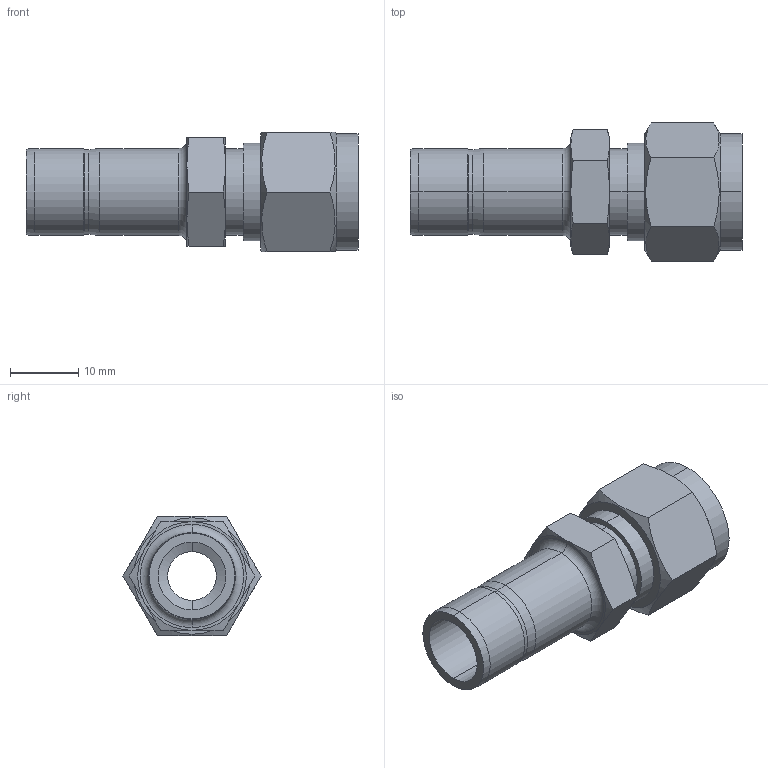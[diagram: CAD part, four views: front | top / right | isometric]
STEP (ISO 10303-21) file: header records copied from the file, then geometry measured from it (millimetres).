
FILE_DESCRIPTION (( 'STEP AP203' ), '1' );
FILE_NAME ('DRE06-08 SS.STEP', '2009-09-08T08:38:00', ( ' ' ), ( '' ), 'SwSTEP 2.0', 'SolidWorks 2008', '' );
FILE_SCHEMA (( 'CONFIG_CONTROL_DESIGN' ));
Length unit declared in the file: millimetre
Products named in the file (1): DRE06-08 SS
Bounding box: 48.5 x 20.16 x 17.46 mm (x, y, z)
Volume: 5143.6 mm3; surface area: 4291.5 mm2
Topology: 1 solids, 1 shells, 63 faces, 138 edges, 82 vertices
Faces by surface type: cone 24, plane 19, cylinder 18, torus 2
Entity records: 1925 total; most frequent: CARTESIAN_POINT 500, DIRECTION 282, ORIENTED_EDGE 276, EDGE_CURVE 138, AXIS2_PLACEMENT_3D 120, VERTEX_POINT 82, EDGE_LOOP 70, ADVANCED_FACE 63
